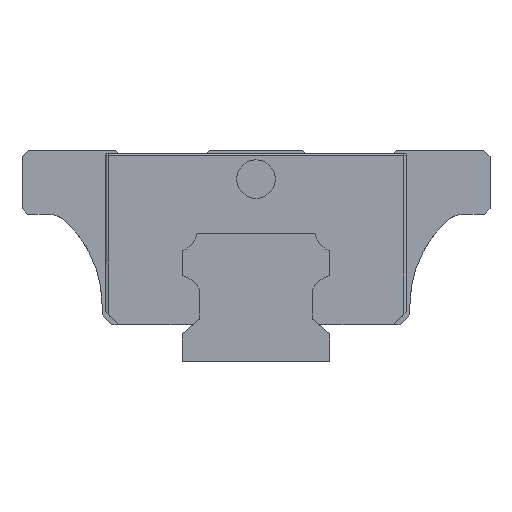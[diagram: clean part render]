
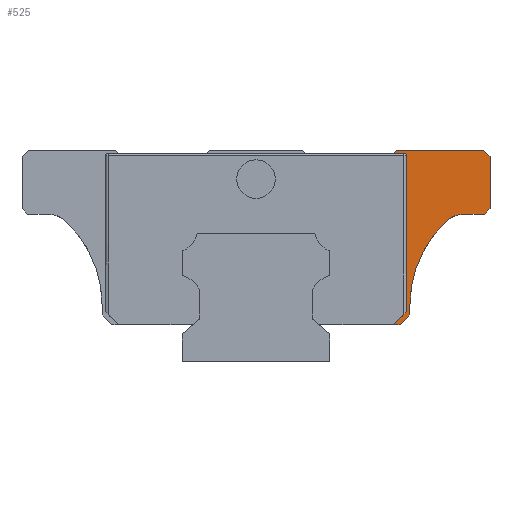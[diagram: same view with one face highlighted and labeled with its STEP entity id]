
A CAD part, left-side view. The second image highlights one B-rep face of the part: STEP entity #525.
In plain terms, the highlighted planar face has unit normal (-1, 0, 0).
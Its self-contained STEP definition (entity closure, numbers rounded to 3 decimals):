
#93 = CARTESIAN_POINT ( 'NONE',  ( -29.5, -24., 7.3 ) ) ;
#171 = CARTESIAN_POINT ( 'NONE',  ( -29.5, -23.449, 32.135 ) ) ;
#197 = CARTESIAN_POINT ( 'NONE',  ( -29.5, -35.6, 23. ) ) ;
#302 = LINE ( 'NONE', #2757, #791 ) ;
#306 = VERTEX_POINT ( 'NONE', #3189 ) ;
#323 = PLANE ( 'NONE',  #1838 ) ;
#343 = CARTESIAN_POINT ( 'NONE',  ( -29.5, -35.55, 33. ) ) ;
#395 = VECTOR ( 'NONE', #6207, 1000. ) ;
#441 = DIRECTION ( 'NONE',  ( -1., 0., 0. ) ) ;
#452 = DIRECTION ( 'NONE',  ( 0., 1., 0. ) ) ;
#477 = LINE ( 'NONE', #2940, #3837 ) ;
#522 = VERTEX_POINT ( 'NONE', #6547 ) ;
#525 = ADVANCED_FACE ( 'NONE', ( #4101 ), #323, .T. ) ;
#618 = VECTOR ( 'NONE', #4499, 1000. ) ;
#653 = DIRECTION ( 'NONE',  ( 1., 0., 0. ) ) ;
#700 = CARTESIAN_POINT ( 'NONE',  ( -29.5, -42., 8.8 ) ) ;
#791 = VECTOR ( 'NONE', #5368, 1000. ) ;
#956 = CARTESIAN_POINT ( 'NONE',  ( -29.5, -24., 8.8 ) ) ;
#1017 = LINE ( 'NONE', #6680, #5326 ) ;
#1106 = LINE ( 'NONE', #7257, #1593 ) ;
#1122 = ORIENTED_EDGE ( 'NONE', *, *, #6445, .F. ) ;
#1176 = EDGE_CURVE ( 'NONE', #522, #2975, #1106, .T. ) ;
#1286 = AXIS2_PLACEMENT_3D ( 'NONE', #2120, #653, #7108 ) ;
#1415 = CIRCLE ( 'NONE', #5934, 0.365 ) ;
#1557 = DIRECTION ( 'NONE',  ( 0., 0., 1. ) ) ;
#1593 = VECTOR ( 'NONE', #2962, 1000. ) ;
#1658 = VERTEX_POINT ( 'NONE', #956 ) ;
#1711 = DIRECTION ( 'NONE',  ( 0., 0.707, 0.707 ) ) ;
#1838 = AXIS2_PLACEMENT_3D ( 'NONE', #2164, #441, #4663 ) ;
#1860 = VERTEX_POINT ( 'NONE', #6161 ) ;
#1883 = EDGE_CURVE ( 'NONE', #4221, #2767, #1909, .T. ) ;
#1909 = LINE ( 'NONE', #4854, #395 ) ;
#1960 = CARTESIAN_POINT ( 'NONE',  ( -29.5, -21.9, 33. ) ) ;
#2043 = CARTESIAN_POINT ( 'NONE',  ( -29.5, -24.589, 32.5 ) ) ;
#2093 = EDGE_CURVE ( 'NONE', #2975, #4221, #302, .T. ) ;
#2120 = CARTESIAN_POINT ( 'NONE',  ( -29.5, -32.41, 19. ) ) ;
#2132 = ORIENTED_EDGE ( 'NONE', *, *, #6487, .T. ) ;
#2151 = ORIENTED_EDGE ( 'NONE', *, *, #1176, .T. ) ;
#2164 = CARTESIAN_POINT ( 'NONE',  ( -29.5, -10.009, 5.8 ) ) ;
#2172 = VERTEX_POINT ( 'NONE', #5908 ) ;
#2226 = LINE ( 'NONE', #5941, #3919 ) ;
#2234 = CARTESIAN_POINT ( 'NONE',  ( -29.5, -23.084, 32.135 ) ) ;
#2280 = VECTOR ( 'NONE', #6731, 1000. ) ;
#2394 = LINE ( 'NONE', #7330, #2280 ) ;
#2407 = ORIENTED_EDGE ( 'NONE', *, *, #1883, .T. ) ;
#2484 = CARTESIAN_POINT ( 'NONE',  ( -29.5, -35.55, 33. ) ) ;
#2520 = CARTESIAN_POINT ( 'NONE',  ( -29.5, -24., 7.3 ) ) ;
#2689 = ORIENTED_EDGE ( 'NONE', *, *, #3539, .T. ) ;
#2757 = CARTESIAN_POINT ( 'NONE',  ( -29.5, -36.5, 23.9 ) ) ;
#2767 = VERTEX_POINT ( 'NONE', #5494 ) ;
#2864 = EDGE_CURVE ( 'NONE', #1860, #522, #6451, .T. ) ;
#2921 = EDGE_CURVE ( 'NONE', #1658, #1860, #2959, .T. ) ;
#2940 = CARTESIAN_POINT ( 'NONE',  ( -29.5, -21.9, 33. ) ) ;
#2957 = DIRECTION ( 'NONE',  ( 0., 0., 1. ) ) ;
#2959 = CIRCLE ( 'NONE', #5925, 18. ) ;
#2962 = DIRECTION ( 'NONE',  ( 0., -1., 0. ) ) ;
#2975 = VERTEX_POINT ( 'NONE', #197 ) ;
#3189 = CARTESIAN_POINT ( 'NONE',  ( -29.5, -22.5, 5.8 ) ) ;
#3343 = EDGE_CURVE ( 'NONE', #2172, #5005, #6284, .T. ) ;
#3359 = CARTESIAN_POINT ( 'NONE',  ( -29.5, -21.443, 5.8 ) ) ;
#3413 = EDGE_CURVE ( 'NONE', #2767, #7803, #6527, .T. ) ;
#3539 = EDGE_CURVE ( 'NONE', #7655, #1658, #2394, .T. ) ;
#3547 = ORIENTED_EDGE ( 'NONE', *, *, #3413, .T. ) ;
#3713 = CARTESIAN_POINT ( 'NONE',  ( -29.5, -11.736, 5.8 ) ) ;
#3756 = DIRECTION ( 'NONE',  ( 0., -1., 0. ) ) ;
#3837 = VECTOR ( 'NONE', #4779, 1000. ) ;
#3919 = VECTOR ( 'NONE', #4115, 1000. ) ;
#3956 = EDGE_CURVE ( 'NONE', #4534, #7483, #7587, .T. ) ;
#4101 = FACE_OUTER_BOUND ( 'NONE', #6929, .T. ) ;
#4115 = DIRECTION ( 'NONE',  ( 0., 0., 1. ) ) ;
#4128 = ORIENTED_EDGE ( 'NONE', *, *, #6590, .T. ) ;
#4221 = VERTEX_POINT ( 'NONE', #4824 ) ;
#4292 = EDGE_CURVE ( 'NONE', #4336, #7483, #477, .T. ) ;
#4296 = ORIENTED_EDGE ( 'NONE', *, *, #3343, .F. ) ;
#4298 = ORIENTED_EDGE ( 'NONE', *, *, #7272, .T. ) ;
#4336 = VERTEX_POINT ( 'NONE', #1960 ) ;
#4499 = DIRECTION ( 'NONE',  ( 0., 1., 0. ) ) ;
#4507 = DIRECTION ( 'NONE',  ( 0., -0.707, 0.707 ) ) ;
#4534 = VERTEX_POINT ( 'NONE', #5879 ) ;
#4663 = DIRECTION ( 'NONE',  ( 0., 0., 1. ) ) ;
#4709 = CARTESIAN_POINT ( 'NONE',  ( -29.5, -21.48, 32.5 ) ) ;
#4779 = DIRECTION ( 'NONE',  ( 0., 0.643, -0.766 ) ) ;
#4824 = CARTESIAN_POINT ( 'NONE',  ( -29.5, -36.5, 23.9 ) ) ;
#4854 = CARTESIAN_POINT ( 'NONE',  ( -29.5, -36.5, 23. ) ) ;
#4860 = ORIENTED_EDGE ( 'NONE', *, *, #2093, .T. ) ;
#4965 = LINE ( 'NONE', #3713, #5599 ) ;
#5005 = VERTEX_POINT ( 'NONE', #6684 ) ;
#5084 = LINE ( 'NONE', #2520, #6574 ) ;
#5326 = VECTOR ( 'NONE', #452, 1000. ) ;
#5337 = DIRECTION ( 'NONE',  ( 1., 0., 0. ) ) ;
#5368 = DIRECTION ( 'NONE',  ( 0., -0.707, 0.707 ) ) ;
#5494 = CARTESIAN_POINT ( 'NONE',  ( -29.5, -36.5, 32.05 ) ) ;
#5599 = VECTOR ( 'NONE', #3756, 1000. ) ;
#5650 = ORIENTED_EDGE ( 'NONE', *, *, #2921, .T. ) ;
#5803 = DIRECTION ( 'NONE',  ( 1., 0., 0. ) ) ;
#5879 = CARTESIAN_POINT ( 'NONE',  ( -29.5, -23.084, 32.5 ) ) ;
#5895 = VECTOR ( 'NONE', #1711, 1000. ) ;
#5908 = CARTESIAN_POINT ( 'NONE',  ( -29.5, -21.443, 5.8 ) ) ;
#5925 = AXIS2_PLACEMENT_3D ( 'NONE', #700, #5803, #1557 ) ;
#5934 = AXIS2_PLACEMENT_3D ( 'NONE', #2234, #5337, #2957 ) ;
#5941 = CARTESIAN_POINT ( 'NONE',  ( -29.5, -23.449, 7.8 ) ) ;
#6022 = VECTOR ( 'NONE', #7020, 1000. ) ;
#6031 = EDGE_CURVE ( 'NONE', #4534, #7274, #1415, .T. ) ;
#6161 = CARTESIAN_POINT ( 'NONE',  ( -29.5, -29.671, 21.914 ) ) ;
#6207 = DIRECTION ( 'NONE',  ( 0., 0., 1. ) ) ;
#6284 = LINE ( 'NONE', #3359, #6022 ) ;
#6445 = EDGE_CURVE ( 'NONE', #5005, #7274, #2226, .T. ) ;
#6451 = CIRCLE ( 'NONE', #1286, 4. ) ;
#6487 = EDGE_CURVE ( 'NONE', #7803, #4336, #1017, .T. ) ;
#6527 = LINE ( 'NONE', #343, #5895 ) ;
#6547 = CARTESIAN_POINT ( 'NONE',  ( -29.5, -32.41, 23. ) ) ;
#6574 = VECTOR ( 'NONE', #4507, 1000. ) ;
#6590 = EDGE_CURVE ( 'NONE', #2172, #306, #4965, .T. ) ;
#6680 = CARTESIAN_POINT ( 'NONE',  ( -29.5, -36.5, 33. ) ) ;
#6684 = CARTESIAN_POINT ( 'NONE',  ( -29.5, -23.449, 7.806 ) ) ;
#6731 = DIRECTION ( 'NONE',  ( 0., 0., 1. ) ) ;
#6929 = EDGE_LOOP ( 'NONE', ( #3547, #2132, #7183, #7775, #7654, #1122, #4296, #4128, #4298, #2689, #5650, #7576, #2151, #4860, #2407 ) ) ;
#7020 = DIRECTION ( 'NONE',  ( 0., -0.707, 0.707 ) ) ;
#7108 = DIRECTION ( 'NONE',  ( 0., 0., 1. ) ) ;
#7183 = ORIENTED_EDGE ( 'NONE', *, *, #4292, .T. ) ;
#7257 = CARTESIAN_POINT ( 'NONE',  ( -29.5, -35.6, 23. ) ) ;
#7272 = EDGE_CURVE ( 'NONE', #306, #7655, #5084, .T. ) ;
#7274 = VERTEX_POINT ( 'NONE', #171 ) ;
#7330 = CARTESIAN_POINT ( 'NONE',  ( -29.5, -24., 8.8 ) ) ;
#7483 = VERTEX_POINT ( 'NONE', #4709 ) ;
#7576 = ORIENTED_EDGE ( 'NONE', *, *, #2864, .T. ) ;
#7587 = LINE ( 'NONE', #2043, #618 ) ;
#7654 = ORIENTED_EDGE ( 'NONE', *, *, #6031, .T. ) ;
#7655 = VERTEX_POINT ( 'NONE', #93 ) ;
#7775 = ORIENTED_EDGE ( 'NONE', *, *, #3956, .F. ) ;
#7803 = VERTEX_POINT ( 'NONE', #2484 ) ;
